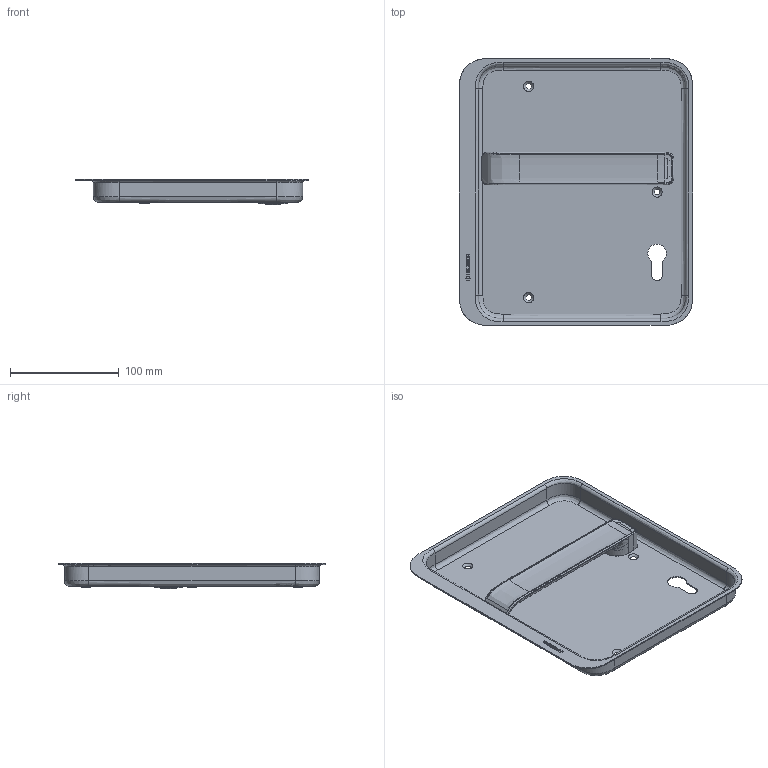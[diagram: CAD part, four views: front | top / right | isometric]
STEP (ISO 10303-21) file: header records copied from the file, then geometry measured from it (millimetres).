
FILE_DESCRIPTION(/* description */ (''),/* implementation_level */ '2;1');
FILE_NAME(/* name */ 'C:\ADSK_DMS_WS\Designs\Vorschläge\Loc Schalen\Muschel Serie 9\S9.20.D3Links\Heusser-Muschel S9.20.D3.378L.stp',/* time_stamp */ '2020-10-13T16:00:08+02:00',/* author */ ('gm'),/* organization */ (''),/* preprocessor_version */ 'ST-DEVELOPER v16.5',/* originating_system */ 'Autodesk Inventor 2017',/* authorisation */ '');
FILE_SCHEMA (('AUTOMOTIVE_DESIGN { 1 0 10303 214 3 1 1 }'));
Length unit declared in the file: millimetre
Products named in the file (1): S9.20.D3.0L
Bounding box: 214 x 245 x 23 mm (x, y, z)
Volume: 101268.3 mm3; surface area: 148479.4 mm2
Topology: 1 solids, 2 shells, 331 faces, 855 edges, 554 vertices
Faces by surface type: bspline 160, plane 133, cylinder 22, cone 16
Full cylindrical faces by diameter (mm): 1.7 x2, 14.2 x1, 16 x3, 18 x1, 19 x1, 19.1 x1, 23 x1, 23.2 x1, 24 x1, 25 x1, 26 x1, 28 x1
Entity records: 18463 total; most frequent: CARTESIAN_POINT 11095, ORIENTED_EDGE 1636, DIRECTION 977, EDGE_CURVE 818, VERTEX_POINT 548, LINE 419, VECTOR 419, EDGE_LOOP 408
